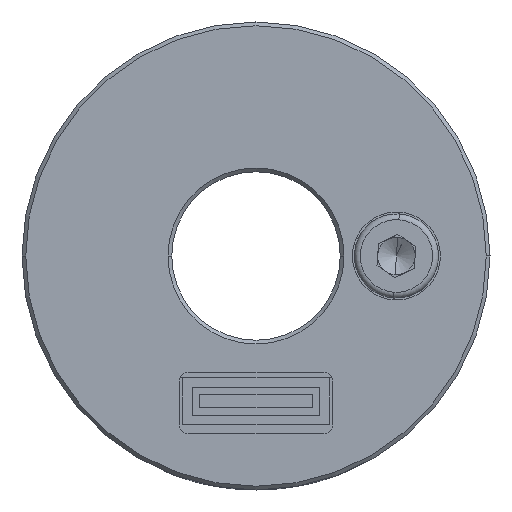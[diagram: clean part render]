
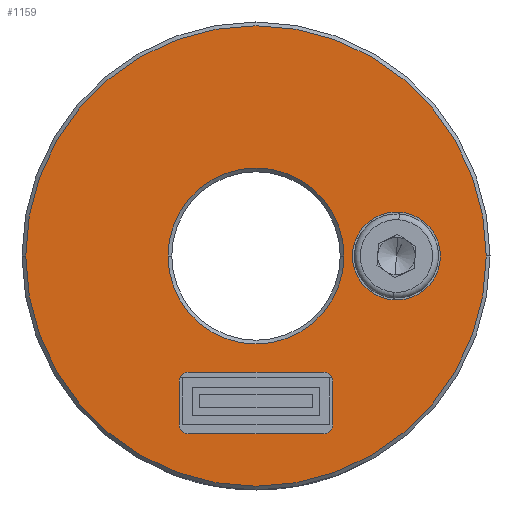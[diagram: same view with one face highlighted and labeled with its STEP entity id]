
A CAD part, front view. The second image highlights one B-rep face of the part: STEP entity #1159.
In plain terms, the highlighted planar face has unit normal (0, -1, 0).
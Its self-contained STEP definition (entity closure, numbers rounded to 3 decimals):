
#46 = CARTESIAN_POINT ( 'NONE',  ( 0., -6., 0. ) ) ;
#195 = DIRECTION ( 'NONE',  ( 0., 1., 0. ) ) ;
#289 = FACE_BOUND ( 'NONE', #3561, .T. ) ;
#329 = ORIENTED_EDGE ( 'NONE', *, *, #464, .F. ) ;
#387 = CARTESIAN_POINT ( 'NONE',  ( -4.7, -6., 0. ) ) ;
#464 = EDGE_CURVE ( 'NONE', #1917, #2949, #1414, .T. ) ;
#537 = AXIS2_PLACEMENT_3D ( 'NONE', #4490, #946, #5109 ) ;
#600 = AXIS2_PLACEMENT_3D ( 'NONE', #46, #4177, #629 ) ;
#629 = DIRECTION ( 'NONE',  ( -1., 0., 0. ) ) ;
#650 = CARTESIAN_POINT ( 'NONE',  ( -12.3, -6., 0. ) ) ;
#668 = EDGE_CURVE ( 'NONE', #7054, #5506, #7275, .T. ) ;
#696 = DIRECTION ( 'NONE',  ( 0., 1., 0. ) ) ;
#801 = CARTESIAN_POINT ( 'NONE',  ( -3.6, -6., -6.2 ) ) ;
#920 = DIRECTION ( 'NONE',  ( 0., 1., 0. ) ) ;
#946 = DIRECTION ( 'NONE',  ( 0., -1., 0. ) ) ;
#1159 = ADVANCED_FACE ( 'NONE', ( #4841, #6401, #1683, #289 ), #7369, .T. ) ;
#1307 = CIRCLE ( 'NONE', #2874, 0.5 ) ;
#1335 = VECTOR ( 'NONE', #1818, 1000. ) ;
#1350 = CARTESIAN_POINT ( 'NONE',  ( 0., -6., 0. ) ) ;
#1388 = VERTEX_POINT ( 'NONE', #4701 ) ;
#1414 = LINE ( 'NONE', #6670, #1335 ) ;
#1469 = CARTESIAN_POINT ( 'NONE',  ( -4.1, -6., -9. ) ) ;
#1532 = DIRECTION ( 'NONE',  ( 0., 1., 0. ) ) ;
#1622 = EDGE_CURVE ( 'NONE', #1917, #6243, #1307, .T. ) ;
#1670 = ORIENTED_EDGE ( 'NONE', *, *, #4181, .T. ) ;
#1683 = FACE_BOUND ( 'NONE', #2940, .T. ) ;
#1781 = CARTESIAN_POINT ( 'NONE',  ( 4.1, -6., -6.2 ) ) ;
#1818 = DIRECTION ( 'NONE',  ( 1., 0., 0. ) ) ;
#1839 = CIRCLE ( 'NONE', #5220, 0.5 ) ;
#1907 = EDGE_CURVE ( 'NONE', #1388, #7517, #5814, .T. ) ;
#1917 = VERTEX_POINT ( 'NONE', #2512 ) ;
#1943 = DIRECTION ( 'NONE',  ( -1., 0., 0. ) ) ;
#1988 = ORIENTED_EDGE ( 'NONE', *, *, #7116, .T. ) ;
#2053 = VERTEX_POINT ( 'NONE', #7304 ) ;
#2093 = CARTESIAN_POINT ( 'NONE',  ( 3.6, -6., -9. ) ) ;
#2106 = EDGE_CURVE ( 'NONE', #2053, #6665, #1839, .T. ) ;
#2161 = DIRECTION ( 'NONE',  ( 0., -1., 0. ) ) ;
#2164 = VERTEX_POINT ( 'NONE', #387 ) ;
#2274 = CIRCLE ( 'NONE', #600, 4.7 ) ;
#2298 = ORIENTED_EDGE ( 'NONE', *, *, #2659, .F. ) ;
#2319 = AXIS2_PLACEMENT_3D ( 'NONE', #5120, #2161, #7425 ) ;
#2369 = DIRECTION ( 'NONE',  ( -1., 0., 0. ) ) ;
#2392 = CARTESIAN_POINT ( 'NONE',  ( 4.1, -6., -6.7 ) ) ;
#2418 = CIRCLE ( 'NONE', #5330, 12.3 ) ;
#2512 = CARTESIAN_POINT ( 'NONE',  ( -3.6, -6., -9.5 ) ) ;
#2537 = DIRECTION ( 'NONE',  ( 0., 0., 1. ) ) ;
#2545 = DIRECTION ( 'NONE',  ( 0., -1., 0. ) ) ;
#2555 = VERTEX_POINT ( 'NONE', #3742 ) ;
#2659 = EDGE_CURVE ( 'NONE', #2053, #6243, #7234, .T. ) ;
#2722 = CARTESIAN_POINT ( 'NONE',  ( 12.3, -6., 0. ) ) ;
#2742 = CIRCLE ( 'NONE', #2887, 2.35 ) ;
#2759 = CARTESIAN_POINT ( 'NONE',  ( 0., -6., 0. ) ) ;
#2801 = CIRCLE ( 'NONE', #5729, 0.5 ) ;
#2826 = ORIENTED_EDGE ( 'NONE', *, *, #2106, .T. ) ;
#2874 = AXIS2_PLACEMENT_3D ( 'NONE', #6886, #3394, #7458 ) ;
#2887 = AXIS2_PLACEMENT_3D ( 'NONE', #6085, #2545, #6664 ) ;
#2940 = EDGE_LOOP ( 'NONE', ( #4795, #3807 ) ) ;
#2949 = VERTEX_POINT ( 'NONE', #4735 ) ;
#2962 = EDGE_CURVE ( 'NONE', #2555, #6665, #5960, .T. ) ;
#2992 = EDGE_CURVE ( 'NONE', #3992, #2164, #2274, .T. ) ;
#3028 = ORIENTED_EDGE ( 'NONE', *, *, #2962, .F. ) ;
#3067 = EDGE_CURVE ( 'NONE', #4776, #5750, #5329, .T. ) ;
#3117 = CARTESIAN_POINT ( 'NONE',  ( 5.15, -6., 0. ) ) ;
#3291 = AXIS2_PLACEMENT_3D ( 'NONE', #3736, #195, #4335 ) ;
#3362 = DIRECTION ( 'NONE',  ( -1., 0., 0. ) ) ;
#3394 = DIRECTION ( 'NONE',  ( 0., 1., 0. ) ) ;
#3561 = EDGE_LOOP ( 'NONE', ( #329, #4166, #2298, #2826, #3028, #1988, #7479, #1670 ) ) ;
#3690 = AXIS2_PLACEMENT_3D ( 'NONE', #4244, #696, #4849 ) ;
#3692 = ORIENTED_EDGE ( 'NONE', *, *, #3067, .T. ) ;
#3736 = CARTESIAN_POINT ( 'NONE',  ( 0., -6., 0. ) ) ;
#3742 = CARTESIAN_POINT ( 'NONE',  ( 3.6, -6., -6.2 ) ) ;
#3807 = ORIENTED_EDGE ( 'NONE', *, *, #668, .F. ) ;
#3974 = CIRCLE ( 'NONE', #3690, 0.5 ) ;
#3992 = VERTEX_POINT ( 'NONE', #5678 ) ;
#4137 = CARTESIAN_POINT ( 'NONE',  ( 9.85, -6., 0. ) ) ;
#4166 = ORIENTED_EDGE ( 'NONE', *, *, #1622, .T. ) ;
#4177 = DIRECTION ( 'NONE',  ( 0., 1., 0. ) ) ;
#4181 = EDGE_CURVE ( 'NONE', #1388, #2949, #2801, .T. ) ;
#4244 = CARTESIAN_POINT ( 'NONE',  ( 3.6, -6., -6.7 ) ) ;
#4335 = DIRECTION ( 'NONE',  ( -1., 0., 0. ) ) ;
#4490 = CARTESIAN_POINT ( 'NONE',  ( 0., -6., 0. ) ) ;
#4515 = EDGE_LOOP ( 'NONE', ( #6839, #7436 ) ) ;
#4701 = CARTESIAN_POINT ( 'NONE',  ( 4.1, -6., -9. ) ) ;
#4735 = CARTESIAN_POINT ( 'NONE',  ( 3.6, -6., -9.5 ) ) ;
#4776 = VERTEX_POINT ( 'NONE', #650 ) ;
#4795 = ORIENTED_EDGE ( 'NONE', *, *, #6147, .F. ) ;
#4841 = FACE_BOUND ( 'NONE', #4515, .T. ) ;
#4849 = DIRECTION ( 'NONE',  ( -1., 0., 0. ) ) ;
#5100 = CARTESIAN_POINT ( 'NONE',  ( -3.6, -6., -6.7 ) ) ;
#5109 = DIRECTION ( 'NONE',  ( -1., 0., 0. ) ) ;
#5120 = CARTESIAN_POINT ( 'NONE',  ( 7.5, -6., 0. ) ) ;
#5220 = AXIS2_PLACEMENT_3D ( 'NONE', #5100, #1532, #5663 ) ;
#5329 = CIRCLE ( 'NONE', #6141, 12.3 ) ;
#5330 = AXIS2_PLACEMENT_3D ( 'NONE', #2759, #6856, #3362 ) ;
#5482 = DIRECTION ( 'NONE',  ( 0., -1., 0. ) ) ;
#5506 = VERTEX_POINT ( 'NONE', #3117 ) ;
#5584 = CARTESIAN_POINT ( 'NONE',  ( -4.1, -6., -6.2 ) ) ;
#5621 = ORIENTED_EDGE ( 'NONE', *, *, #6816, .T. ) ;
#5663 = DIRECTION ( 'NONE',  ( -1., 0., 0. ) ) ;
#5678 = CARTESIAN_POINT ( 'NONE',  ( 4.7, -6., 0. ) ) ;
#5729 = AXIS2_PLACEMENT_3D ( 'NONE', #2093, #920, #6934 ) ;
#5750 = VERTEX_POINT ( 'NONE', #2722 ) ;
#5814 = LINE ( 'NONE', #6653, #7338 ) ;
#5876 = VECTOR ( 'NONE', #6160, 1000. ) ;
#5960 = LINE ( 'NONE', #1781, #7496 ) ;
#6085 = CARTESIAN_POINT ( 'NONE',  ( 7.5, -6., 0. ) ) ;
#6141 = AXIS2_PLACEMENT_3D ( 'NONE', #1350, #5482, #1943 ) ;
#6147 = EDGE_CURVE ( 'NONE', #5506, #7054, #2742, .T. ) ;
#6151 = EDGE_CURVE ( 'NONE', #2164, #3992, #7040, .T. ) ;
#6160 = DIRECTION ( 'NONE',  ( 0., 0., -1. ) ) ;
#6243 = VERTEX_POINT ( 'NONE', #1469 ) ;
#6401 = FACE_OUTER_BOUND ( 'NONE', #6457, .T. ) ;
#6457 = EDGE_LOOP ( 'NONE', ( #5621, #3692 ) ) ;
#6653 = CARTESIAN_POINT ( 'NONE',  ( 4.1, -6., -9.5 ) ) ;
#6664 = DIRECTION ( 'NONE',  ( -1., 0., 0. ) ) ;
#6665 = VERTEX_POINT ( 'NONE', #801 ) ;
#6670 = CARTESIAN_POINT ( 'NONE',  ( -4.1, -6., -9.5 ) ) ;
#6816 = EDGE_CURVE ( 'NONE', #5750, #4776, #2418, .T. ) ;
#6839 = ORIENTED_EDGE ( 'NONE', *, *, #6151, .T. ) ;
#6856 = DIRECTION ( 'NONE',  ( 0., -1., 0. ) ) ;
#6886 = CARTESIAN_POINT ( 'NONE',  ( -3.6, -6., -9. ) ) ;
#6934 = DIRECTION ( 'NONE',  ( -1., 0., 0. ) ) ;
#7040 = CIRCLE ( 'NONE', #3291, 4.7 ) ;
#7054 = VERTEX_POINT ( 'NONE', #4137 ) ;
#7116 = EDGE_CURVE ( 'NONE', #2555, #7517, #3974, .T. ) ;
#7234 = LINE ( 'NONE', #5584, #5876 ) ;
#7275 = CIRCLE ( 'NONE', #2319, 2.35 ) ;
#7304 = CARTESIAN_POINT ( 'NONE',  ( -4.1, -6., -6.7 ) ) ;
#7338 = VECTOR ( 'NONE', #2537, 1000. ) ;
#7369 = PLANE ( 'NONE',  #537 ) ;
#7425 = DIRECTION ( 'NONE',  ( -1., 0., 0. ) ) ;
#7436 = ORIENTED_EDGE ( 'NONE', *, *, #2992, .T. ) ;
#7458 = DIRECTION ( 'NONE',  ( -1., 0., 0. ) ) ;
#7479 = ORIENTED_EDGE ( 'NONE', *, *, #1907, .F. ) ;
#7496 = VECTOR ( 'NONE', #2369, 1000. ) ;
#7517 = VERTEX_POINT ( 'NONE', #2392 ) ;
